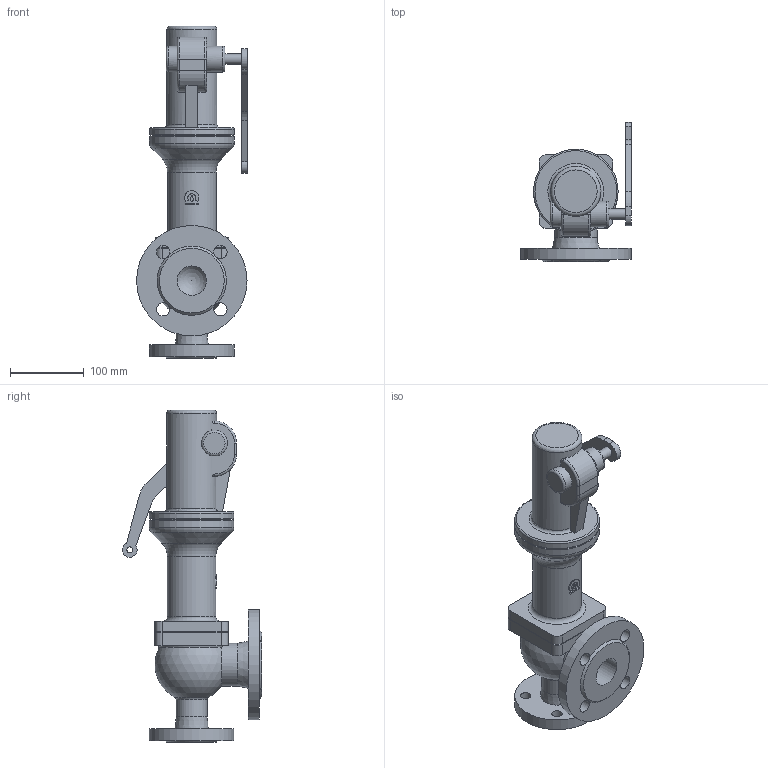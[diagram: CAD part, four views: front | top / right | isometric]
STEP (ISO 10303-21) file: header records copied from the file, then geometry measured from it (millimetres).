
FILE_DESCRIPTION(('STEP AP203'), '1');
FILE_NAME('Êëàïàí ïðåäîõðàíèòåëüíûé ïîëíîïîäüåìíûé SV2F DN25x40', '', ('UNSPECIFIED'), ('UNSPECIFIED'), 'ASCON STEP Converter 1.6', 'ASCON Math Kernel', '');
FILE_SCHEMA(('CONFIG_CONTROL_DESIGN'));
Length unit declared in the file: millimetre
Bounding box: 150.5 x 188.96 x 451 mm (x, y, z)
Volume: 2601429.6 mm3; surface area: 251555.5 mm2
Topology: 1 solids, 1 shells, 136 faces, 392 edges, 264 vertices
Faces by surface type: plane 60, cylinder 54, torus 14, cone 6, sphere 2
Full cylindrical faces by diameter (mm): 8 x1, 14 x5, 18 x4, 25 x1, 35 x2, 40 x1, 42 x1, 58 x1, 66 x1, 68 x1, 88 x1, 100.94 x1, 115 x3, 150 x1
Entity records: 6960 total; most frequent: CARTESIAN_POINT 2292, DIRECTION 765, ORIENTED_EDGE 696, EDGE_CURVE 348, AXIS2_PLACEMENT_3D 321, VERTEX_POINT 263, EDGE_LOOP 203, CIRCLE 184
